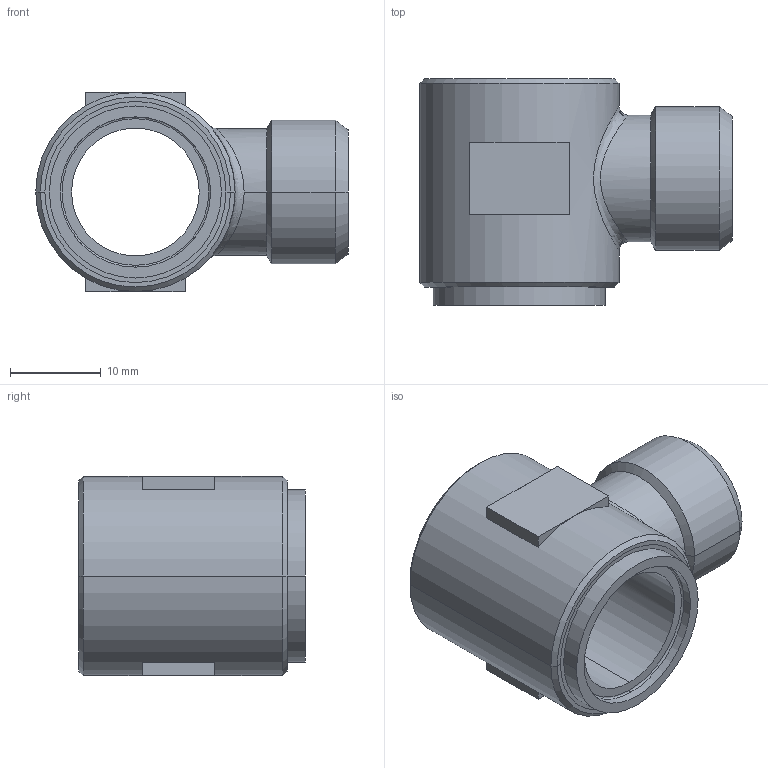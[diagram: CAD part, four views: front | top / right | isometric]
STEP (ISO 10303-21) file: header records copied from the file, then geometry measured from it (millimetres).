
FILE_DESCRIPTION((''),'2;1');
FILE_NAME('101315.stp','2007-10-30T15:40:05',(''),(''),'AutoCAD STEP 2000i','AutoCAD 2000i',', , ');
FILE_SCHEMA(('CONFIG_CONTROL_DESIGN'));
Length unit declared in the file: millimetre
Products named in the file (2): 101315.0; 1094#0
Assembly tree (1 placements, depth 2):
  101315.0
    1094#0
Bounding box: 34.5 x 25 x 22 mm (x, y, z)
Volume: 7152.6 mm3; surface area: 4227.3 mm2
Topology: 1 solids, 1 shells, 55 faces, 127 edges, 79 vertices
Faces by surface type: plane 20, cylinder 16, cone 14, bspline 5
Entity records: 2096 total; most frequent: CARTESIAN_POINT 711, DIRECTION 285, ORIENTED_EDGE 254, EDGE_CURVE 127, AXIS2_PLACEMENT_3D 115, VERTEX_POINT 79, EDGE_LOOP 64, CIRCLE 63
